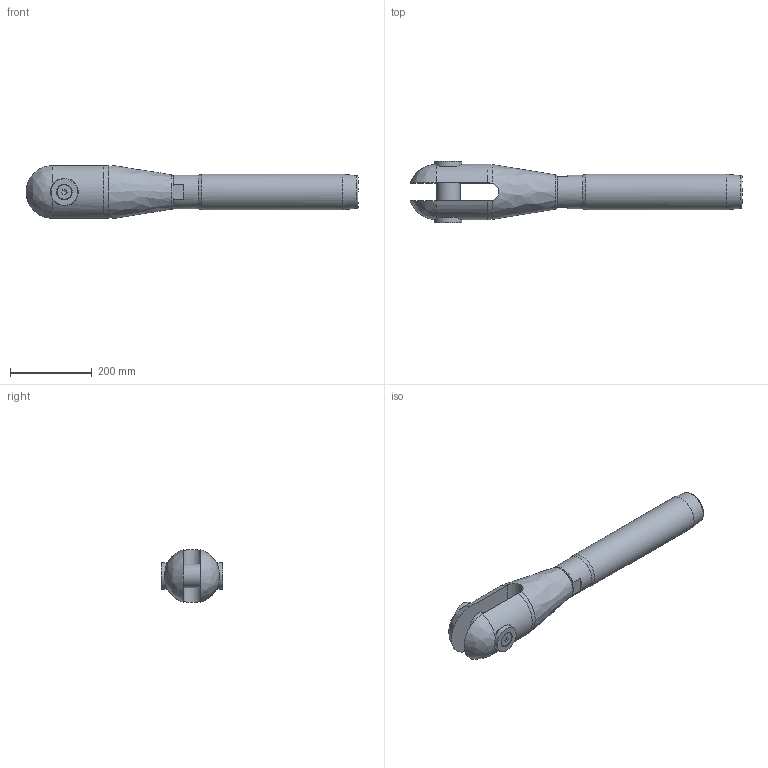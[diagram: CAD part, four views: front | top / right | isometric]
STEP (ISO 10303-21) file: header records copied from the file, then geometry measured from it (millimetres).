
FILE_DESCRIPTION(/* description */ (''),/* implementation_level */ '2;1');
FILE_NAME(/* name */ 'MAC-R 42_1,4418',/* time_stamp */ '2023-05-23T17:52:23+02:00',/* author */ (''),/* organization */ (''),/* preprocessor_version */ 'ST-DEVELOPER v16.5',/* originating_system */ 'Rhino 7.22',/* authorisation */ '');
FILE_SCHEMA (('CONFIG_CONTROL_DESIGN'));
Length unit declared in the file: millimetre
Products named in the file (1): Document
Bounding box: 812.34 x 151.54 x 128.88 mm (x, y, z)
Volume: 5745403.4 mm3; surface area: 424334.5 mm2
Topology: 7 solids, 7 shells, 88 faces, 246 edges, 171 vertices
Faces by surface type: plane 36, bspline 28, cylinder 24
Full cylindrical faces by diameter (mm): 17.294 x2, 20 x2, 21 x2, 35.4 x2, 58 x1, 59 x2, 60.752 x1, 64 x1, 66 x2, 83 x1, 87 x1
Entity records: 3558 total; most frequent: CARTESIAN_POINT 1995, ORIENTED_EDGE 482, EDGE_CURVE 241, VERTEX_POINT 171, EDGE_LOOP 100, B_SPLINE_CURVE_WITH_KNOTS 97, ADVANCED_FACE 88, FACE_OUTER_BOUND 88
